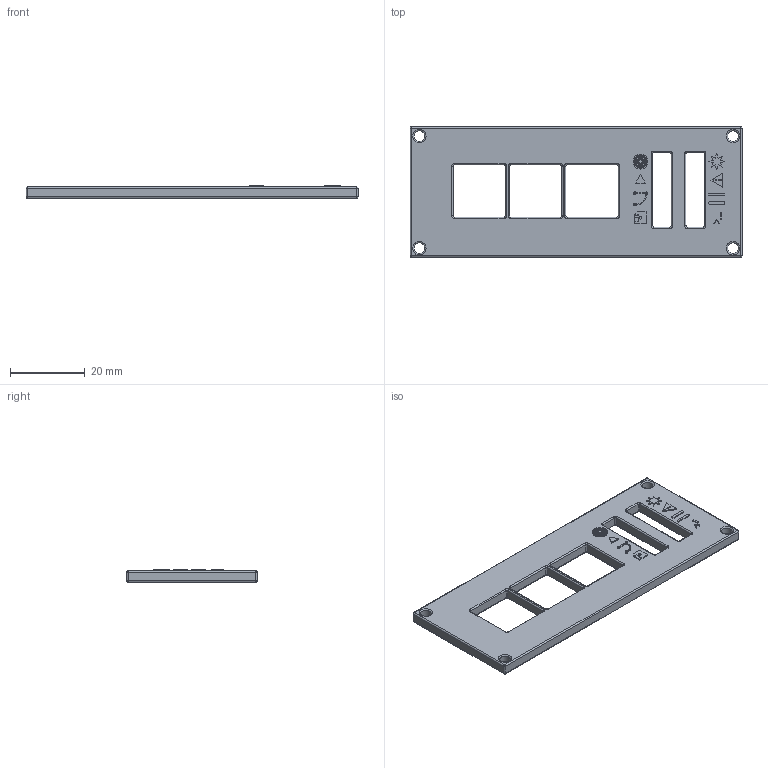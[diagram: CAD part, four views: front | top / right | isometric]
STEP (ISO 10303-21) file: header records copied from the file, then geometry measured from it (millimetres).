
FILE_DESCRIPTION(('HOOPS Exchange Step'),'2;1');
FILE_NAME('/Users/ruben_sutton29/Library/Containers/com.shapr3d.shapr/Data/tmp/export/temp_export','2026-03-03T20:23:53+11:00',('ruben_sutton29'),('Shapr3D Limited'),'HOOPS Exchange 2025.9','Shapr3D','Authorized');
FILE_SCHEMA( ('AP242_MANAGED_MODEL_BASED_3D_ENGINEERING_MIM_LF {1 0 10303 442 1 1 4}') );
Length unit declared in the file: millimetre
Products named in the file (1): Body 11
Bounding box: 88.9 x 34.9 x 3.3 mm (x, y, z)
Volume: 6847.7 mm3; surface area: 6106.5 mm2
Topology: 1 solids, 1 shells, 294 faces, 724 edges, 450 vertices
Faces by surface type: plane 131, cylinder 105, torus 48, sphere 8, bspline 2
Full cylindrical faces by diameter (mm): 0.5 x3, 0.8 x1, 1 x1, 1.5 x1, 2 x1, 2.5 x1, 2.9 x4, 3 x1, 3.5 x1, 4 x1
Entity records: 8704 total; most frequent: DIRECTION 1596, CARTESIAN_POINT 1488, ORIENTED_EDGE 1432, EDGE_CURVE 716, AXIS2_PLACEMENT_3D 590, VERTEX_POINT 450, VECTOR 416, LINE 416
